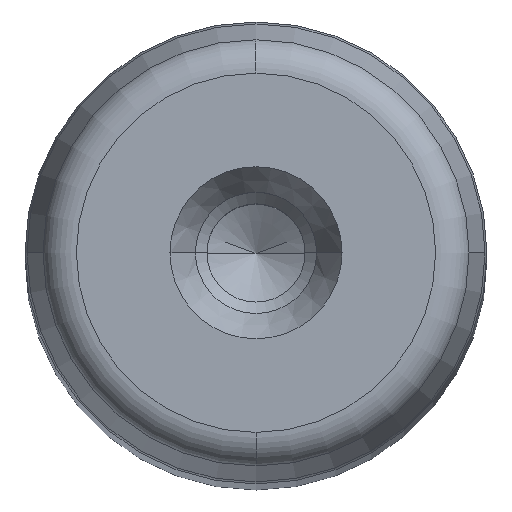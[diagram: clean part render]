
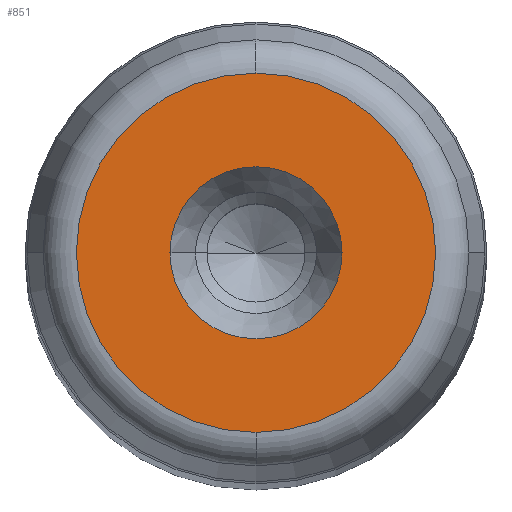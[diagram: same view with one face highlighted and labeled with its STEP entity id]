
A CAD part, top view. The second image highlights one B-rep face of the part: STEP entity #851.
In plain terms, the highlighted planar face has unit normal (0, 0, 1) as drawn and (0, 1, 0) by its records, which use the part's own axes.
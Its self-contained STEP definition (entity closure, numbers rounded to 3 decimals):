
#281=CARTESIAN_POINT('',(7.45,315.0,0.0));
#282=VERTEX_POINT('',#281);
#289=CARTESIAN_POINT('',(-7.45,315.0,0.));
#290=VERTEX_POINT('',#289);
#291=CARTESIAN_POINT('',(0.0,315.0,0.0));
#292=DIRECTION('',(0.0,1.0,0.0));
#293=DIRECTION('',(1.0,0.0,0.0));
#294=AXIS2_PLACEMENT_3D('',#291,#292,#293);
#295=CIRCLE('',#294,7.45);
#296=EDGE_CURVE('',#282,#290,#295,.T.);
#313=CARTESIAN_POINT('',(0.0,315.0,15.554));
#314=VERTEX_POINT('',#313);
#324=CARTESIAN_POINT('',(0.,315.0,-15.554));
#325=VERTEX_POINT('',#324);
#326=CARTESIAN_POINT('',(0.0,315.0,0.0));
#327=DIRECTION('',(0.0,1.0,0.0));
#328=DIRECTION('',(1.0,0.0,0.0));
#329=AXIS2_PLACEMENT_3D('',#326,#327,#328);
#330=CIRCLE('',#329,15.554);
#331=EDGE_CURVE('',#325,#314,#330,.T.);
#812=CARTESIAN_POINT('',(15.554,315.0,0.0));
#813=VERTEX_POINT('',#812);
#814=CARTESIAN_POINT('',(0.0,315.0,0.0));
#815=DIRECTION('',(0.0,1.0,0.0));
#816=DIRECTION('',(1.0,0.0,0.0));
#817=AXIS2_PLACEMENT_3D('',#814,#815,#816);
#818=CIRCLE('',#817,15.554);
#819=EDGE_CURVE('',#813,#325,#818,.T.);
#821=CARTESIAN_POINT('',(0.0,315.0,0.0));
#822=DIRECTION('',(0.0,1.0,0.0));
#823=DIRECTION('',(1.0,0.0,0.0));
#824=AXIS2_PLACEMENT_3D('',#821,#822,#823);
#825=CIRCLE('',#824,15.554);
#826=EDGE_CURVE('',#314,#813,#825,.T.);
#831=CARTESIAN_POINT('',(-17.11,315.0,-17.11));
#832=DIRECTION('',(0.0,1.0,0.0));
#833=DIRECTION('',(0.0,0.0,1.0));
#834=AXIS2_PLACEMENT_3D('',#831,#832,#833);
#835=PLANE('',#834);
#836=ORIENTED_EDGE('',*,*,#819,.T.);
#837=ORIENTED_EDGE('',*,*,#331,.T.);
#838=ORIENTED_EDGE('',*,*,#826,.T.);
#839=EDGE_LOOP('',(#836,#837,#838));
#840=FACE_OUTER_BOUND('',#839,.T.);
#841=ORIENTED_EDGE('',*,*,#296,.F.);
#842=CARTESIAN_POINT('',(0.0,315.0,0.0));
#843=DIRECTION('',(0.0,1.0,0.0));
#844=DIRECTION('',(1.0,0.0,0.0));
#845=AXIS2_PLACEMENT_3D('',#842,#843,#844);
#846=CIRCLE('',#845,7.45);
#847=EDGE_CURVE('',#290,#282,#846,.T.);
#848=ORIENTED_EDGE('',*,*,#847,.F.);
#849=EDGE_LOOP('',(#841,#848));
#850=FACE_BOUND('',#849,.T.);
#851=ADVANCED_FACE('',(#840,#850),#835,.T.);
